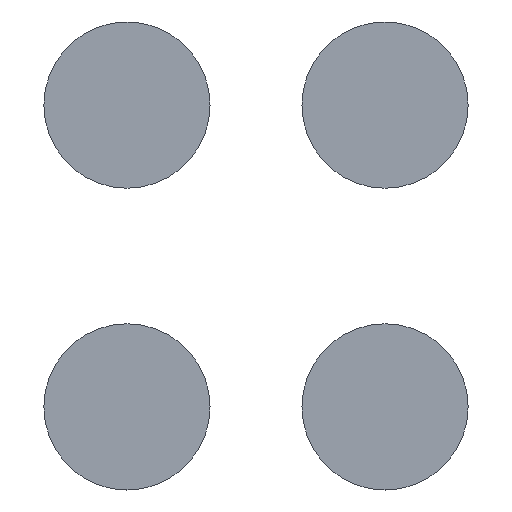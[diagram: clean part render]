
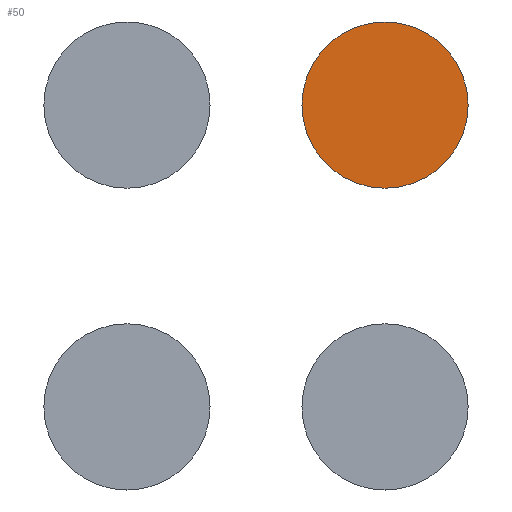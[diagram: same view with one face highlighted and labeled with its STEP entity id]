
A CAD part, top view. The second image highlights one B-rep face of the part: STEP entity #50.
In plain terms, the highlighted planar face has unit normal (0, 0, 1).
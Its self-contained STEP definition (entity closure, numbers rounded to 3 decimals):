
#21 = EDGE_CURVE('',#22,#22,#24,.T.);
#22 = VERTEX_POINT('',#23);
#23 = CARTESIAN_POINT('',(194.,138.,33.));
#24 = CIRCLE('',#25,76.);
#25 = AXIS2_PLACEMENT_3D('',#26,#27,#28);
#26 = CARTESIAN_POINT('',(118.,138.,33.));
#27 = DIRECTION('',(0.,0.,1.));
#28 = DIRECTION('',(1.,0.,0.));
#50 = ADVANCED_FACE('',(#51),#54,.T.);
#51 = FACE_BOUND('',#52,.T.);
#52 = EDGE_LOOP('',(#53));
#53 = ORIENTED_EDGE('',*,*,#21,.T.);
#54 = PLANE('',#55);
#55 = AXIS2_PLACEMENT_3D('',#56,#57,#58);
#56 = CARTESIAN_POINT('',(118.,138.,33.));
#57 = DIRECTION('',(0.,0.,1.));
#58 = DIRECTION('',(1.,0.,0.));
